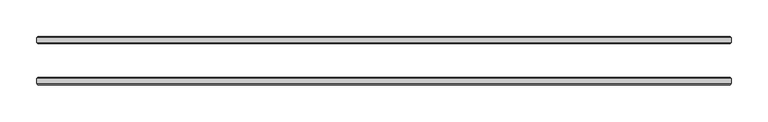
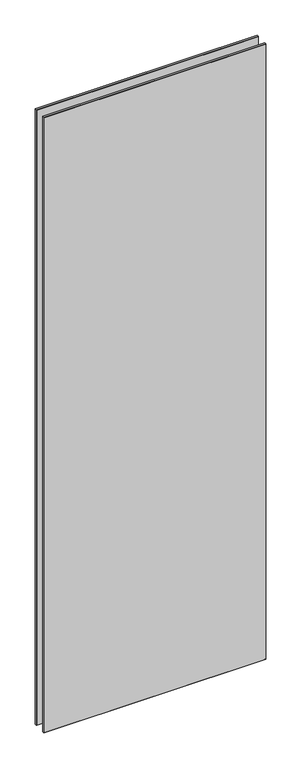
"""IFC4 building model written with IfcOpenShell, lengths in millimetres: plate geometry, 10-AMG-2-Панель двойной витраж10 : Стекло 10mm."""

from ifc_helpers import new_model, si_unit, origin, place, context, project, spatial, faceted_brep, source, transform, mapped, element, save


def plate_e5ce113d(model_context):
    return source(origin(), model_context, "Body", "Brep", [
        faceted_brep([(473.9961907, -31.4961653, 2758.0), (473.9961907, -24.5038347, 2758.0), (-473.9961907, -24.5038347, 2758.0), (-473.9961907, -31.4961653, 2758.0), (473.9961907, -24.5038347, -20.0), (473.9961907, -31.4961653, -20.0), (-473.9961907, -31.4961653, -20.0), (-473.9961907, -24.5038347, -20.0), (-472.492356, -23.0, 2756.4961653), (472.492356, -23.0, 2756.4961653), (472.492356, -23.0, -18.5039422), (-472.492356, -23.0, -18.5039422), (472.492356, -33.0, 2756.4961653), (-472.492356, -33.0, 2756.4961653), (-472.492356, -33.0, -18.4961653), (472.492356, -33.0, -18.4961653)], [[[0, 1, 2, 3]], [[4, 5, 6, 7]], [[8, 9, 10, 11]], [[3, 2, 7, 6]], [[12, 13, 14, 15]], [[1, 0, 5, 4]], [[1, 4, 10, 9]], [[5, 0, 12, 15]], [[0, 3, 13, 12]], [[2, 1, 9, 8]], [[7, 2, 8, 11]], [[3, 6, 14, 13]], [[6, 5, 15, 14]], [[4, 7, 11, 10]]]),
        faceted_brep([(473.9961907, 24.5038347, 2758.0), (473.9961907, 31.4961653, 2758.0), (-473.9961907, 31.4961653, 2758.0), (-473.9961907, 24.5038347, 2758.0), (473.9961907, 31.4961653, -20.0), (473.9961907, 24.5038347, -20.0), (-473.9961907, 24.5038347, -20.0), (-473.9961907, 31.4961653, -20.0), (-472.492356, 33.0, 2756.4961653), (472.492356, 33.0, 2756.4961653), (472.492356, 33.0, -18.5039422), (-472.492356, 33.0, -18.5039422), (472.492356, 23.0, 2756.4961653), (-472.492356, 23.0, 2756.4961653), (-472.492356, 23.0, -18.4961653), (472.492356, 23.0, -18.4961653)], [[[0, 1, 2, 3]], [[4, 5, 6, 7]], [[8, 9, 10, 11]], [[3, 2, 7, 6]], [[12, 13, 14, 15]], [[1, 0, 5, 4]], [[1, 4, 10, 9]], [[5, 0, 12, 15]], [[7, 2, 8, 11]], [[3, 6, 14, 13]], [[0, 3, 13, 12]], [[2, 1, 9, 8]], [[6, 5, 15, 14]], [[4, 7, 11, 10]]]),
    ])


if __name__ == "__main__":
    model = new_model("IFC4")
    model_context = context("Model", 3, world=origin())
    ifc_project = project(units=[si_unit("LENGTHUNIT", "METRE", prefix="MILLI")], contexts=[model_context])
    site = spatial("IfcSite", under=ifc_project)
    building = spatial("IfcBuilding", under=site)
    placement = place(None, origin())
    plate_shape = plate_e5ce113d(model_context)
    element("IfcPlate", 1, ObjectType="10-AMG-2-Панель двойной витраж10 : Стекло 10mm", at=placement, inside=building, context=model_context, shape_type="MappedRepresentation", body=[
        mapped(plate_shape, transform((0.0, 0.0, 0.0), x_axis=(1.0, 0.0, 0.0), y_axis=(0.0, 1.0, 0.0), z_axis=(0.0, 0.0, 1.0))),
    ])
    save(model, "model.ifc")
